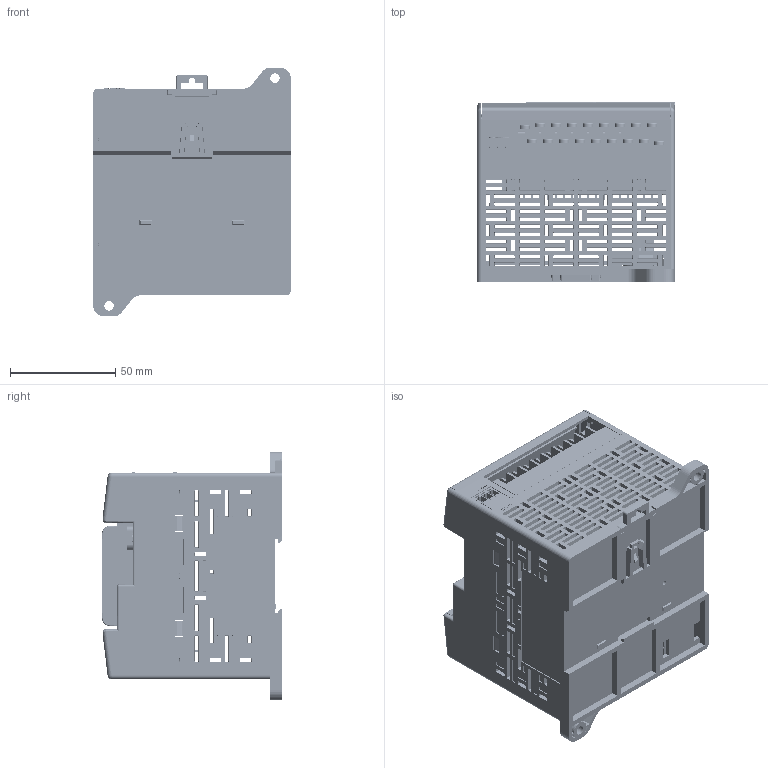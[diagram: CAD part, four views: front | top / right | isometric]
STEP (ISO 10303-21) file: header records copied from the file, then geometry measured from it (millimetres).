
FILE_DESCRIPTION((''),'2;1');
FILE_NAME('MP2-24A2_ASM','2022-03-29T09:23:34',('Lenovo'),(''),'CREO PARAMETRIC BY PTC INC, 2020033','CREO PARAMETRIC BY PTC INC, 2020033','');
FILE_SCHEMA(('CONFIG_CONTROL_DESIGN'));
Products named in the file (27): MP2-24A2-BASE; MP2-24A2-COVER; MP2-24A2-PCB-I; JL762D-76218E03; JL762D-76216E03; MP2-24A2-PCB-I_ASM; MP2-24A2-PCB-U; RJ45-180; MDC-8-04_6; 2X10; OQ381-RIGHT-ANGLE; TYPE-C-180; MS-12D27-G4; BH2-S-2639-000; MS-22D16-G4-190; MP2-24A2-PCB-U_ASM; MP2-24A2-GB01; KAKOU; MP2-24A2-DGZ; MP2-24A2-PCB-P; MP2-24A2-PCB-P_ASM; DIANCHIHE-165; DBMK; BD-BAN; DBMK_ASM; TYPE-C-JIAOSAI; MP2-24A2_ASM
Assembly tree (27 placements, depth 3):
  MP2-24A2_ASM
    MP2-24A2-BASE
    MP2-24A2-COVER
    MP2-24A2-PCB-I_ASM
      MP2-24A2-PCB-I
      JL762D-76218E03
      JL762D-76216E03
    MP2-24A2-PCB-U_ASM
      MP2-24A2-PCB-U
      RJ45-180
      MDC-8-04_6
      2X10
      OQ381-RIGHT-ANGLE
      TYPE-C-180
      MS-12D27-G4
      BH2-S-2639-000
      MS-22D16-G4-190
    MP2-24A2-GB01  x2
    KAKOU
    MP2-24A2-DGZ
    MP2-24A2-PCB-P_ASM
      MP2-24A2-PCB-P
    DIANCHIHE-165
    DBMK_ASM
      DBMK
      BD-BAN
    TYPE-C-JIAOSAI
Bounding box: 94 x 85.95 x 118.5 mm (x, y, z)
Volume: 200331 mm3; surface area: 216913.9 mm2
Topology: 50 solids, 88 shells, 8322 faces, 22868 edges, 15035 vertices
Faces by surface type: plane 5822, cone 1267, cylinder 1010, bspline 114, torus 87, sphere 21, extrusion 1
Entity records: 272081 total; most frequent: CARTESIAN_POINT 61328, ORIENTED_EDGE 45280, DIRECTION 40640, EDGE_CURVE 22648, VECTOR 17084, LINE 17083, VERTEX_POINT 14899, AXIS2_PLACEMENT_3D 11778
